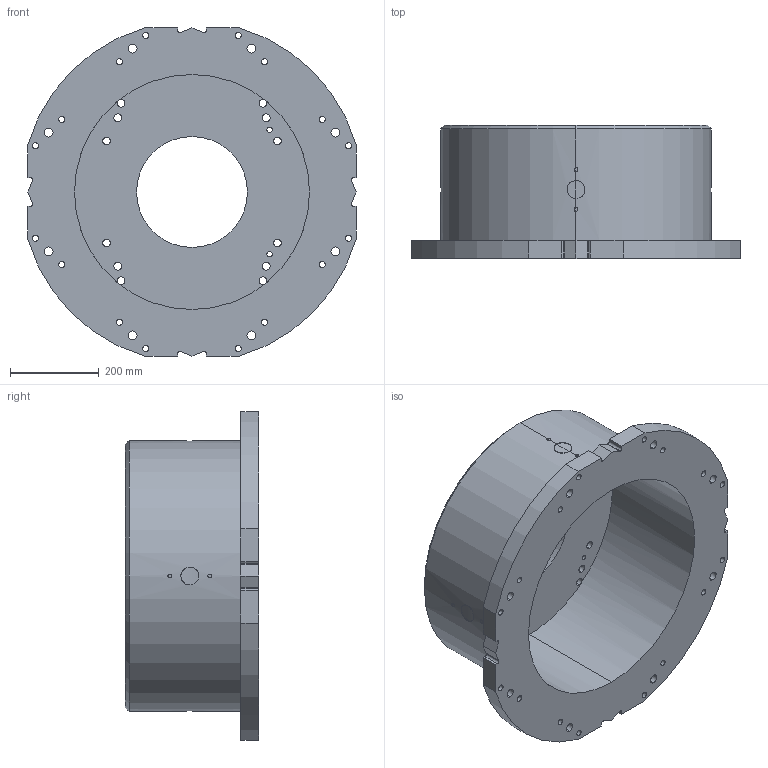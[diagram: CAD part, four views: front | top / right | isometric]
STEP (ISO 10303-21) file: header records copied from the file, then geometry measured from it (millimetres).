
FILE_DESCRIPTION (( 'STEP AP214' ), '1' );
FILE_NAME ('M-300.STEP', '2025-12-09T10:17:59', ( '' ), ( '' ), 'SwSTEP 2.0', 'SolidWorks 2022', '' );
FILE_SCHEMA (( 'AUTOMOTIVE_DESIGN' ));
Length unit declared in the file: millimetre
Products named in the file (1): M-300
Bounding box: 740 x 300 x 740 mm (x, y, z)
Volume: 33974085.7 mm3; surface area: 1931781.5 mm2
Topology: 1 solids, 1 shells, 179 faces, 489 edges, 318 vertices
Faces by surface type: cylinder 137, plane 28, bspline 8, cone 6
Entity records: 9046 total; most frequent: CARTESIAN_POINT 3457, DIRECTION 981, ORIENTED_EDGE 970, EDGE_CURVE 485, AXIS2_PLACEMENT_3D 386, VERTEX_POINT 318, EDGE_LOOP 267, CIRCLE 214
